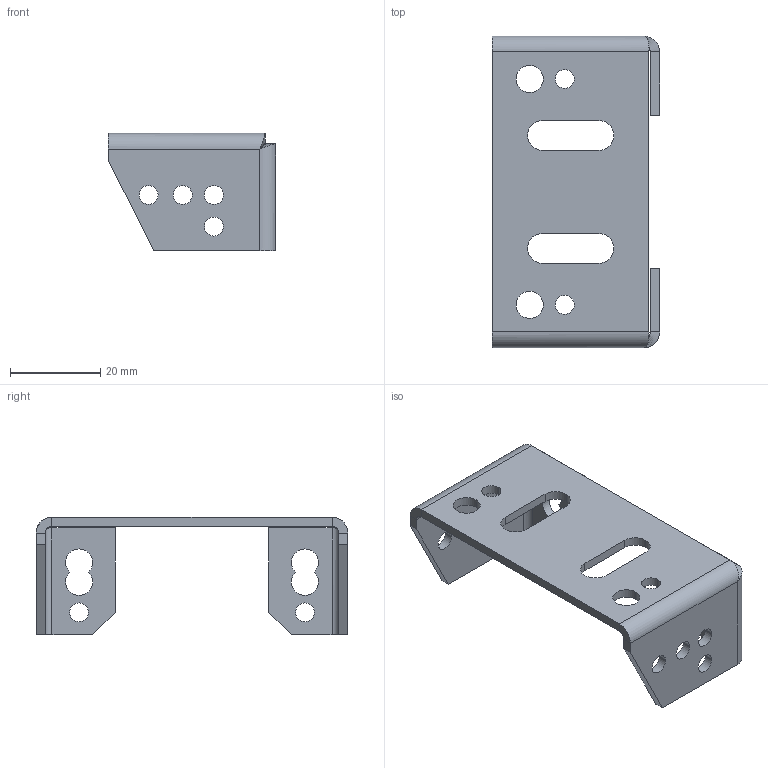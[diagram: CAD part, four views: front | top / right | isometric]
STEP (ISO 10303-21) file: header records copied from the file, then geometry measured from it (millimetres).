
FILE_DESCRIPTION (( 'STEP AP214' ), '1' );
FILE_NAME ('MG 09 L 01.002 Êðîíøòåéí ðåéêè ìîíòàæíîé v2.STEP', '2019-09-05T08:51:14', ( 'test' ), ( '' ), 'SwSTEP 2.0', 'SolidWorks 2012', '' );
FILE_SCHEMA (( 'AUTOMOTIVE_DESIGN' ));
Length unit declared in the file: millimetre
Products named in the file (1): MG 09 L 01.002 Êðîíøòåéí ðåéêè ìîíòàæíîé v2
Bounding box: 37 x 69 x 26 mm (x, y, z)
Volume: 7971.4 mm3; surface area: 9361.5 mm2
Topology: 1 solids, 1 shells, 92 faces, 238 edges, 148 vertices
Faces by surface type: cylinder 54, plane 34, bspline 4
Entity records: 3308 total; most frequent: CARTESIAN_POINT 915, DIRECTION 502, ORIENTED_EDGE 476, EDGE_CURVE 238, AXIS2_PLACEMENT_3D 189, VERTEX_POINT 148, EDGE_LOOP 128, VECTOR 124
